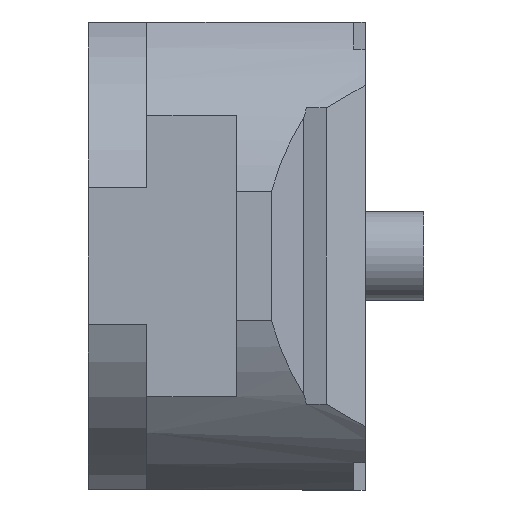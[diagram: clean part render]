
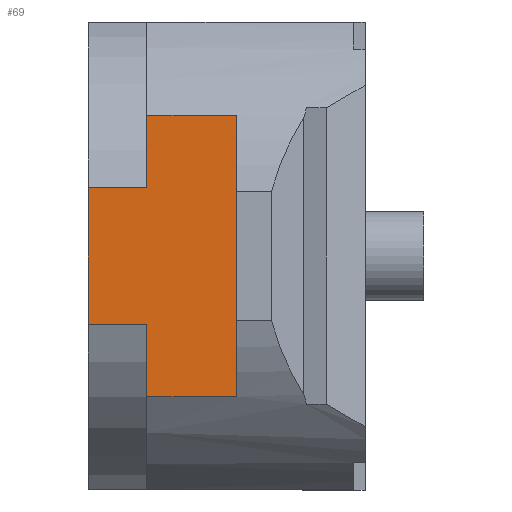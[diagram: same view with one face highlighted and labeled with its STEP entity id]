
A CAD part, left-side view. The second image highlights one B-rep face of the part: STEP entity #69.
In plain terms, the highlighted planar face has unit normal (-1, 0, 0).
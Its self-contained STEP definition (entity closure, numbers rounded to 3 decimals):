
#69 = ADVANCED_FACE ( 'NONE', ( #897 ), #896, .F. ) ;
#70 = ORIENTED_EDGE ( 'NONE', *, *, #119, .F. ) ;
#74 = ORIENTED_EDGE ( 'NONE', *, *, #662, .T. ) ;
#75 = VERTEX_POINT ( 'NONE', #868 ) ;
#76 = ORIENTED_EDGE ( 'NONE', *, *, #77, .T. ) ;
#77 = EDGE_CURVE ( 'NONE', #665, #78, #867, .T. ) ;
#78 = VERTEX_POINT ( 'NONE', #863 ) ;
#79 = ORIENTED_EDGE ( 'NONE', *, *, #80, .F. ) ;
#80 = EDGE_CURVE ( 'NONE', #81, #78, #862, .T. ) ;
#81 = VERTEX_POINT ( 'NONE', #858 ) ;
#119 = EDGE_CURVE ( 'NONE', #125, #122, #1112, .T. ) ;
#122 = VERTEX_POINT ( 'NONE', #1108 ) ;
#125 = VERTEX_POINT ( 'NONE', #1102 ) ;
#460 = ORIENTED_EDGE ( 'NONE', *, *, #461, .T. ) ;
#461 = EDGE_CURVE ( 'NONE', #125, #462, #1406, .T. ) ;
#462 = VERTEX_POINT ( 'NONE', #1402 ) ;
#638 = ORIENTED_EDGE ( 'NONE', *, *, #639, .F. ) ;
#639 = EDGE_CURVE ( 'NONE', #640, #81, #1855, .T. ) ;
#640 = VERTEX_POINT ( 'NONE', #1851 ) ;
#641 = ORIENTED_EDGE ( 'NONE', *, *, #642, .F. ) ;
#642 = EDGE_CURVE ( 'NONE', #122, #640, #1846, .T. ) ;
#654 = EDGE_LOOP ( 'NONE', ( #70, #460, #74, #663, #76, #79, #638, #641 ) ) ;
#662 = EDGE_CURVE ( 'NONE', #462, #75, #1914, .T. ) ;
#663 = ORIENTED_EDGE ( 'NONE', *, *, #664, .F. ) ;
#664 = EDGE_CURVE ( 'NONE', #665, #75, #1910, .T. ) ;
#665 = VERTEX_POINT ( 'NONE', #1906 ) ;
#858 = CARTESIAN_POINT ( 'NONE',  ( -22., 7.1, -1.75 ) ) ;
#859 = DIRECTION ( 'NONE',  ( 0., 0., 1. ) ) ;
#860 = VECTOR ( 'NONE', #859, 1000. ) ;
#861 = CARTESIAN_POINT ( 'NONE',  ( -22., 7.1, -3.606 ) ) ;
#862 = LINE ( 'NONE', #861, #860 ) ;
#863 = CARTESIAN_POINT ( 'NONE',  ( -22., 7.1, 1.75 ) ) ;
#864 = DIRECTION ( 'NONE',  ( 0., 1., 0. ) ) ;
#865 = VECTOR ( 'NONE', #864, 1000. ) ;
#866 = CARTESIAN_POINT ( 'NONE',  ( -22., 5.6, 1.75 ) ) ;
#867 = LINE ( 'NONE', #866, #865 ) ;
#868 = CARTESIAN_POINT ( 'NONE',  ( -22., 5.6, 3.606 ) ) ;
#892 = DIRECTION ( 'NONE',  ( 0., 0., -1. ) ) ;
#893 = DIRECTION ( 'NONE',  ( 1., 0., 0. ) ) ;
#894 = CARTESIAN_POINT ( 'NONE',  ( -22., 5.6, -6. ) ) ;
#895 = AXIS2_PLACEMENT_3D ( 'NONE', #894, #893, #892 ) ;
#896 = PLANE ( 'NONE',  #895 ) ;
#897 = FACE_OUTER_BOUND ( 'NONE', #654, .T. ) ;
#1102 = CARTESIAN_POINT ( 'NONE',  ( -22., 3.3, -3.606 ) ) ;
#1108 = CARTESIAN_POINT ( 'NONE',  ( -22., 5.6, -3.606 ) ) ;
#1109 = DIRECTION ( 'NONE',  ( 0., 1., 0. ) ) ;
#1110 = VECTOR ( 'NONE', #1109, 1000. ) ;
#1111 = CARTESIAN_POINT ( 'NONE',  ( -22., 0., -3.606 ) ) ;
#1112 = LINE ( 'NONE', #1111, #1110 ) ;
#1402 = CARTESIAN_POINT ( 'NONE',  ( -22., 3.3, 3.606 ) ) ;
#1403 = DIRECTION ( 'NONE',  ( 0., 0., 1. ) ) ;
#1404 = VECTOR ( 'NONE', #1403, 1000. ) ;
#1405 = CARTESIAN_POINT ( 'NONE',  ( -22., 3.3, 3.606 ) ) ;
#1406 = LINE ( 'NONE', #1405, #1404 ) ;
#1843 = DIRECTION ( 'NONE',  ( 0., 0., 1. ) ) ;
#1844 = VECTOR ( 'NONE', #1843, 1000. ) ;
#1845 = CARTESIAN_POINT ( 'NONE',  ( -22., 5.6, -6. ) ) ;
#1846 = LINE ( 'NONE', #1845, #1844 ) ;
#1851 = CARTESIAN_POINT ( 'NONE',  ( -22., 5.6, -1.75 ) ) ;
#1852 = DIRECTION ( 'NONE',  ( 0., 1., 0. ) ) ;
#1853 = VECTOR ( 'NONE', #1852, 1000. ) ;
#1854 = CARTESIAN_POINT ( 'NONE',  ( -22., 5.6, -1.75 ) ) ;
#1855 = LINE ( 'NONE', #1854, #1853 ) ;
#1906 = CARTESIAN_POINT ( 'NONE',  ( -22., 5.6, 1.75 ) ) ;
#1907 = DIRECTION ( 'NONE',  ( 0., 0., 1. ) ) ;
#1908 = VECTOR ( 'NONE', #1907, 1000. ) ;
#1909 = CARTESIAN_POINT ( 'NONE',  ( -22., 5.6, -6. ) ) ;
#1910 = LINE ( 'NONE', #1909, #1908 ) ;
#1911 = DIRECTION ( 'NONE',  ( 0., 1., 0. ) ) ;
#1912 = VECTOR ( 'NONE', #1911, 1000. ) ;
#1913 = CARTESIAN_POINT ( 'NONE',  ( -22., 0., 3.606 ) ) ;
#1914 = LINE ( 'NONE', #1913, #1912 ) ;
